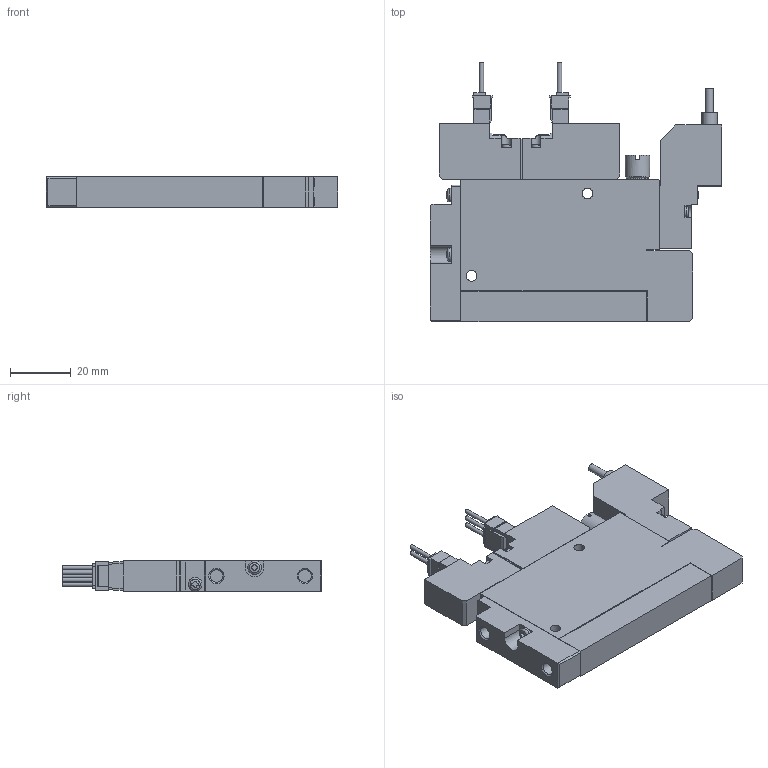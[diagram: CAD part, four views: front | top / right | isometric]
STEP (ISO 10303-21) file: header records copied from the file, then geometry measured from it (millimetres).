
FILE_DESCRIPTION(('STEP AP203'),'1');
FILE_NAME('5WC_3D.stp','2024-09-04T23:20:38',(' '),(' '),'Spatial InterOp 3D',' ',' ');
FILE_SCHEMA(('CONFIG_CONTROL_DESIGN'));
Length unit declared in the file: millimetre
Products named in the file (5): BSC1SXV8※5WC; Solenoid valve W; Pressure Sensor V8; Unit-C; BaseSC10R
Assembly tree (4 placements, depth 2):
  BSC1SXV8※5WC
    Solenoid valve W
    Pressure Sensor V8
    Unit-C
    BaseSC10R
Bounding box: 95.5 x 85.05 x 10 mm (x, y, z)
Volume: 53527.7 mm3; surface area: 19036.9 mm2
Topology: 4 solids, 4 shells, 399 faces, 1066 edges, 704 vertices
Faces by surface type: plane 317, cylinder 65, cone 7, torus 6, sphere 4
Full cylindrical faces by diameter (mm): 1.4 x5, 2.5 x3, 3 x4, 3.5 x6, 4.134 x4, 4.5 x2, 5 x1, 5.5 x1, 7 x1, 8 x1
Entity records: 12419 total; most frequent: CARTESIAN_POINT 2401, ORIENTED_EDGE 2008, DIRECTION 1945, EDGE_CURVE 1004, LINE 791, VECTOR 791, VERTEX_POINT 687, AXIS2_PLACEMENT_3D 577
